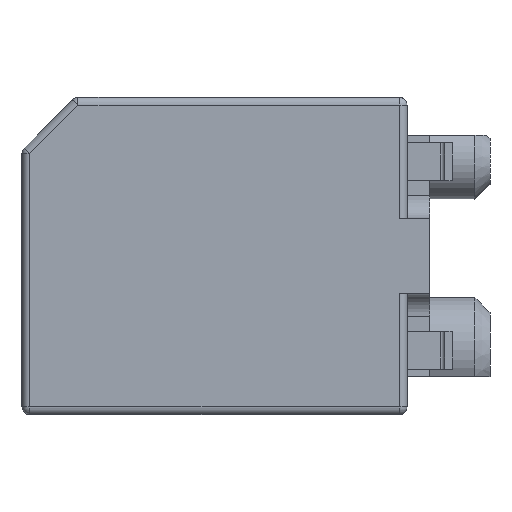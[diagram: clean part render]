
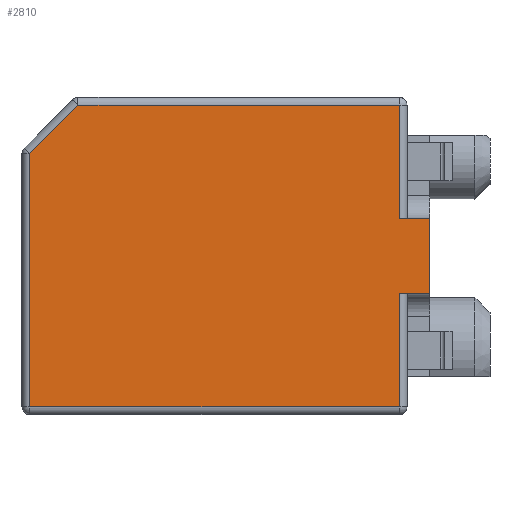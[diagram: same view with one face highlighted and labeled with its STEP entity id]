
A CAD part, left-side view. The second image highlights one B-rep face of the part: STEP entity #2810.
In plain terms, the highlighted planar face has unit normal (-1, 0, 0).
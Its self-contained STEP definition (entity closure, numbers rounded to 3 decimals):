
#75=PLANE('',#2957);
#195=LINE('',#3990,#384);
#196=LINE('',#3993,#385);
#197=LINE('',#3995,#386);
#198=LINE('',#3997,#387);
#199=LINE('',#3999,#388);
#200=LINE('',#4001,#389);
#201=LINE('',#4003,#390);
#202=LINE('',#4005,#391);
#203=LINE('',#4007,#392);
#384=VECTOR('',#3331,1000.);
#385=VECTOR('',#3332,1000.);
#386=VECTOR('',#3333,1000.);
#387=VECTOR('',#3334,1000.);
#388=VECTOR('',#3335,1000.);
#389=VECTOR('',#3336,1000.);
#390=VECTOR('',#3337,1000.);
#391=VECTOR('',#3338,1000.);
#392=VECTOR('',#3339,1000.);
#673=ORIENTED_EDGE('',*,*,#1173,.T.);
#674=ORIENTED_EDGE('',*,*,#1174,.T.);
#675=ORIENTED_EDGE('',*,*,#1175,.F.);
#676=ORIENTED_EDGE('',*,*,#1176,.F.);
#677=ORIENTED_EDGE('',*,*,#1177,.T.);
#678=ORIENTED_EDGE('',*,*,#1178,.T.);
#679=ORIENTED_EDGE('',*,*,#1179,.T.);
#680=ORIENTED_EDGE('',*,*,#1180,.T.);
#681=ORIENTED_EDGE('',*,*,#1181,.T.);
#1173=EDGE_CURVE('',#1431,#1432,#195,.T.);
#1174=EDGE_CURVE('',#1432,#1433,#196,.T.);
#1175=EDGE_CURVE('',#1434,#1433,#197,.T.);
#1176=EDGE_CURVE('',#1435,#1434,#198,.T.);
#1177=EDGE_CURVE('',#1435,#1436,#199,.T.);
#1178=EDGE_CURVE('',#1436,#1437,#200,.T.);
#1179=EDGE_CURVE('',#1437,#1438,#201,.T.);
#1180=EDGE_CURVE('',#1438,#1439,#202,.F.);
#1181=EDGE_CURVE('',#1439,#1431,#203,.F.);
#1431=VERTEX_POINT('',#3991);
#1432=VERTEX_POINT('',#3992);
#1433=VERTEX_POINT('',#3994);
#1434=VERTEX_POINT('',#3996);
#1435=VERTEX_POINT('',#3998);
#1436=VERTEX_POINT('',#4000);
#1437=VERTEX_POINT('',#4002);
#1438=VERTEX_POINT('',#4004);
#1439=VERTEX_POINT('',#4006);
#1658=EDGE_LOOP('',(#673,#674,#675,#676,#677,#678,#679,#680,#681));
#1785=FACE_BOUND('',#1658,.T.);
#2810=ADVANCED_FACE('',(#1785),#75,.T.);
#2957=AXIS2_PLACEMENT_3D('',#3989,#3329,#3330);
#3329=DIRECTION('',(-1.,0.,0.));
#3330=DIRECTION('',(0.,0.,1.));
#3331=DIRECTION('',(0.,0.,1.));
#3332=DIRECTION('',(0.,-1.,0.));
#3333=DIRECTION('',(0.,0.,-1.));
#3334=DIRECTION('',(0.,-1.,0.));
#3335=DIRECTION('',(0.,0.,1.));
#3336=DIRECTION('',(0.,1.,0.));
#3337=DIRECTION('',(0.,0.707,-0.707));
#3338=DIRECTION('',(0.,0.,1.));
#3339=DIRECTION('',(0.,1.,0.));
#3989=CARTESIAN_POINT('',(-3.2,-5.4,-2.1));
#3990=CARTESIAN_POINT('',(-3.2,-5.001,-0.5));
#3991=CARTESIAN_POINT('',(-3.2,-5.001,-2.));
#3992=CARTESIAN_POINT('',(-3.2,-5.001,-0.5));
#3993=CARTESIAN_POINT('',(-3.2,-5.4,-0.5));
#3994=CARTESIAN_POINT('',(-3.2,-5.4,-0.5));
#3995=CARTESIAN_POINT('',(-3.2,-5.4,-1.6));
#3996=CARTESIAN_POINT('',(-3.2,-5.4,0.5));
#3997=CARTESIAN_POINT('',(-3.2,-5.4,0.5));
#3998=CARTESIAN_POINT('',(-3.2,-5.001,0.5));
#3999=CARTESIAN_POINT('',(-3.2,-5.001,2.1));
#4000=CARTESIAN_POINT('',(-3.2,-5.001,2.));
#4001=CARTESIAN_POINT('',(-3.2,-5.4,2.));
#4002=CARTESIAN_POINT('',(-3.2,-0.741,2.));
#4003=CARTESIAN_POINT('',(-3.2,-1.021,2.279));
#4004=CARTESIAN_POINT('',(-3.2,-0.1,1.359));
#4005=CARTESIAN_POINT('',(-3.2,-0.1,-2.1));
#4006=CARTESIAN_POINT('',(-3.2,-0.1,-2.));
#4007=CARTESIAN_POINT('',(-3.2,-5.4,-2.));
